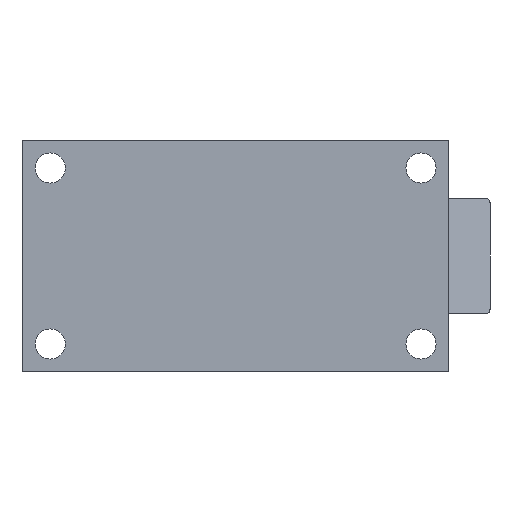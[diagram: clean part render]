
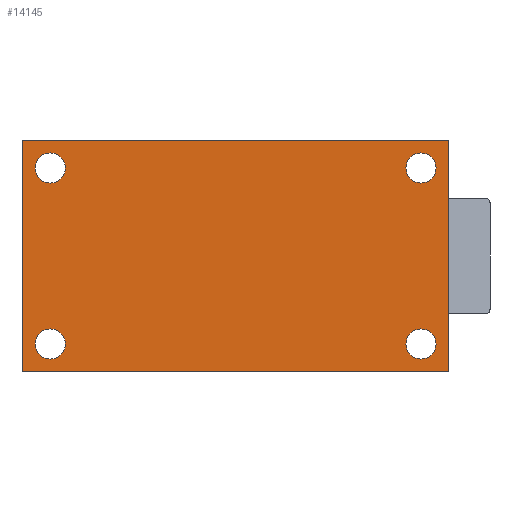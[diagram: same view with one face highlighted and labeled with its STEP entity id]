
A CAD part, front view. The second image highlights one B-rep face of the part: STEP entity #14145.
In plain terms, the highlighted planar face has unit normal (0, -1, 0).
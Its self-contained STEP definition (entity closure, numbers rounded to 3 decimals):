
#49 = DIRECTION ( 'NONE',  ( 0., 0., 1. ) ) ;
#126 = EDGE_LOOP ( 'NONE', ( #6690, #9476, #7011, #12792 ) ) ;
#183 = CARTESIAN_POINT ( 'NONE',  ( 40., -5., 19. ) ) ;
#228 = CARTESIAN_POINT ( 'NONE',  ( -40., -5., 19. ) ) ;
#258 = DIRECTION ( 'NONE',  ( 0., 1., 0. ) ) ;
#281 = DIRECTION ( 'NONE',  ( 0., 1., 0. ) ) ;
#503 = CIRCLE ( 'NONE', #7913, 3.25 ) ;
#531 = CARTESIAN_POINT ( 'NONE',  ( -40., -5., -15.75 ) ) ;
#618 = DIRECTION ( 'NONE',  ( 0., 1., 0. ) ) ;
#1272 = CARTESIAN_POINT ( 'NONE',  ( 46., -5., -25. ) ) ;
#1338 = CIRCLE ( 'NONE', #5550, 3.25 ) ;
#1396 = AXIS2_PLACEMENT_3D ( 'NONE', #1825, #6355, #9931 ) ;
#1507 = AXIS2_PLACEMENT_3D ( 'NONE', #7181, #11907, #5964 ) ;
#1725 = FACE_BOUND ( 'NONE', #2144, .T. ) ;
#1825 = CARTESIAN_POINT ( 'NONE',  ( -40., -5., -19. ) ) ;
#1846 = VERTEX_POINT ( 'NONE', #11957 ) ;
#1973 = EDGE_CURVE ( 'NONE', #15002, #5725, #4780, .T. ) ;
#2142 = CARTESIAN_POINT ( 'NONE',  ( -40., -5., 15.75 ) ) ;
#2144 = EDGE_LOOP ( 'NONE', ( #2409, #6312 ) ) ;
#2197 = CARTESIAN_POINT ( 'NONE',  ( 40., -5., 19. ) ) ;
#2409 = ORIENTED_EDGE ( 'NONE', *, *, #8081, .T. ) ;
#2495 = VECTOR ( 'NONE', #8034, 1000. ) ;
#2846 = VERTEX_POINT ( 'NONE', #6873 ) ;
#3109 = CARTESIAN_POINT ( 'NONE',  ( 0., -5., 0. ) ) ;
#3212 = CIRCLE ( 'NONE', #1396, 3.25 ) ;
#3382 = DIRECTION ( 'NONE',  ( 0., 0., 1. ) ) ;
#3422 = CARTESIAN_POINT ( 'NONE',  ( -46., -5., -25. ) ) ;
#3468 = EDGE_CURVE ( 'NONE', #3482, #9103, #15251, .T. ) ;
#3482 = VERTEX_POINT ( 'NONE', #9320 ) ;
#3579 = FACE_BOUND ( 'NONE', #6650, .T. ) ;
#3771 = ORIENTED_EDGE ( 'NONE', *, *, #1973, .T. ) ;
#3784 = CARTESIAN_POINT ( 'NONE',  ( 46., -5., -25. ) ) ;
#3937 = FACE_BOUND ( 'NONE', #8812, .T. ) ;
#4027 = DIRECTION ( 'NONE',  ( 0., 0., -1. ) ) ;
#4122 = CARTESIAN_POINT ( 'NONE',  ( 40., -5., -22.25 ) ) ;
#4332 = EDGE_LOOP ( 'NONE', ( #5437, #7553 ) ) ;
#4780 = CIRCLE ( 'NONE', #5427, 3.25 ) ;
#4963 = DIRECTION ( 'NONE',  ( 0., 0., -1. ) ) ;
#5002 = VECTOR ( 'NONE', #4027, 1000. ) ;
#5084 = EDGE_CURVE ( 'NONE', #14718, #15345, #3212, .T. ) ;
#5427 = AXIS2_PLACEMENT_3D ( 'NONE', #228, #281, #4963 ) ;
#5437 = ORIENTED_EDGE ( 'NONE', *, *, #7591, .T. ) ;
#5550 = AXIS2_PLACEMENT_3D ( 'NONE', #13303, #258, #49 ) ;
#5632 = VERTEX_POINT ( 'NONE', #1272 ) ;
#5725 = VERTEX_POINT ( 'NONE', #5812 ) ;
#5812 = CARTESIAN_POINT ( 'NONE',  ( -40., -5., 22.25 ) ) ;
#5964 = DIRECTION ( 'NONE',  ( 0., 0., -1. ) ) ;
#5966 = DIRECTION ( 'NONE',  ( 0., 1., 0. ) ) ;
#6002 = DIRECTION ( 'NONE',  ( 0., 0., 1. ) ) ;
#6183 = FACE_OUTER_BOUND ( 'NONE', #126, .T. ) ;
#6312 = ORIENTED_EDGE ( 'NONE', *, *, #14448, .T. ) ;
#6355 = DIRECTION ( 'NONE',  ( 0., 1., 0. ) ) ;
#6426 = VERTEX_POINT ( 'NONE', #11579 ) ;
#6469 = EDGE_CURVE ( 'NONE', #6426, #2846, #11279, .T. ) ;
#6541 = CIRCLE ( 'NONE', #1507, 3.25 ) ;
#6650 = EDGE_LOOP ( 'NONE', ( #3771, #15261 ) ) ;
#6690 = ORIENTED_EDGE ( 'NONE', *, *, #10954, .F. ) ;
#6873 = CARTESIAN_POINT ( 'NONE',  ( 40., -5., 15.75 ) ) ;
#7011 = ORIENTED_EDGE ( 'NONE', *, *, #3468, .F. ) ;
#7181 = CARTESIAN_POINT ( 'NONE',  ( 40., -5., -19. ) ) ;
#7404 = LINE ( 'NONE', #3784, #5002 ) ;
#7553 = ORIENTED_EDGE ( 'NONE', *, *, #5084, .T. ) ;
#7591 = EDGE_CURVE ( 'NONE', #15345, #14718, #1338, .T. ) ;
#7625 = AXIS2_PLACEMENT_3D ( 'NONE', #183, #5966, #8356 ) ;
#7913 = AXIS2_PLACEMENT_3D ( 'NONE', #2197, #10508, #3382 ) ;
#8034 = DIRECTION ( 'NONE',  ( -1., 0., 0. ) ) ;
#8081 = EDGE_CURVE ( 'NONE', #10059, #1846, #13252, .T. ) ;
#8141 = CARTESIAN_POINT ( 'NONE',  ( -40., -5., 19. ) ) ;
#8302 = CARTESIAN_POINT ( 'NONE',  ( -40., -5., -22.25 ) ) ;
#8356 = DIRECTION ( 'NONE',  ( 0., 0., 1. ) ) ;
#8438 = CIRCLE ( 'NONE', #10942, 3.25 ) ;
#8620 = DIRECTION ( 'NONE',  ( 1., 0., 0. ) ) ;
#8812 = EDGE_LOOP ( 'NONE', ( #14373, #9730 ) ) ;
#9103 = VERTEX_POINT ( 'NONE', #11592 ) ;
#9195 = DIRECTION ( 'NONE',  ( 0., 1., 0. ) ) ;
#9273 = CARTESIAN_POINT ( 'NONE',  ( -46., -5., -25. ) ) ;
#9320 = CARTESIAN_POINT ( 'NONE',  ( -46., -5., -25. ) ) ;
#9476 = ORIENTED_EDGE ( 'NONE', *, *, #11700, .F. ) ;
#9730 = ORIENTED_EDGE ( 'NONE', *, *, #6469, .T. ) ;
#9931 = DIRECTION ( 'NONE',  ( 0., 0., 1. ) ) ;
#10059 = VERTEX_POINT ( 'NONE', #4122 ) ;
#10163 = AXIS2_PLACEMENT_3D ( 'NONE', #3109, #9195, #11435 ) ;
#10261 = AXIS2_PLACEMENT_3D ( 'NONE', #15028, #618, #11492 ) ;
#10508 = DIRECTION ( 'NONE',  ( 0., 1., 0. ) ) ;
#10649 = FACE_BOUND ( 'NONE', #4332, .T. ) ;
#10942 = AXIS2_PLACEMENT_3D ( 'NONE', #8141, #11693, #11642 ) ;
#10954 = EDGE_CURVE ( 'NONE', #11580, #5632, #7404, .T. ) ;
#11093 = EDGE_CURVE ( 'NONE', #2846, #6426, #503, .T. ) ;
#11236 = LINE ( 'NONE', #3422, #2495 ) ;
#11279 = CIRCLE ( 'NONE', #7625, 3.25 ) ;
#11435 = DIRECTION ( 'NONE',  ( 0., 0., 1. ) ) ;
#11492 = DIRECTION ( 'NONE',  ( 0., 0., -1. ) ) ;
#11579 = CARTESIAN_POINT ( 'NONE',  ( 40., -5., 22.25 ) ) ;
#11580 = VERTEX_POINT ( 'NONE', #13072 ) ;
#11592 = CARTESIAN_POINT ( 'NONE',  ( -46., -5., 25. ) ) ;
#11642 = DIRECTION ( 'NONE',  ( 0., 0., -1. ) ) ;
#11693 = DIRECTION ( 'NONE',  ( 0., 1., 0. ) ) ;
#11700 = EDGE_CURVE ( 'NONE', #9103, #11580, #12776, .T. ) ;
#11907 = DIRECTION ( 'NONE',  ( 0., 1., 0. ) ) ;
#11957 = CARTESIAN_POINT ( 'NONE',  ( 40., -5., -15.75 ) ) ;
#12438 = CARTESIAN_POINT ( 'NONE',  ( -46., -5., 25. ) ) ;
#12562 = PLANE ( 'NONE',  #10163 ) ;
#12776 = LINE ( 'NONE', #12438, #15207 ) ;
#12792 = ORIENTED_EDGE ( 'NONE', *, *, #13042, .F. ) ;
#13042 = EDGE_CURVE ( 'NONE', #5632, #3482, #11236, .T. ) ;
#13072 = CARTESIAN_POINT ( 'NONE',  ( 46., -5., 25. ) ) ;
#13092 = EDGE_CURVE ( 'NONE', #5725, #15002, #8438, .T. ) ;
#13252 = CIRCLE ( 'NONE', #10261, 3.25 ) ;
#13303 = CARTESIAN_POINT ( 'NONE',  ( -40., -5., -19. ) ) ;
#13429 = VECTOR ( 'NONE', #6002, 1000. ) ;
#14145 = ADVANCED_FACE ( 'NONE', ( #6183, #10649, #1725, #3937, #3579 ), #12562, .F. ) ;
#14373 = ORIENTED_EDGE ( 'NONE', *, *, #11093, .T. ) ;
#14448 = EDGE_CURVE ( 'NONE', #1846, #10059, #6541, .T. ) ;
#14718 = VERTEX_POINT ( 'NONE', #531 ) ;
#15002 = VERTEX_POINT ( 'NONE', #2142 ) ;
#15028 = CARTESIAN_POINT ( 'NONE',  ( 40., -5., -19. ) ) ;
#15207 = VECTOR ( 'NONE', #8620, 1000. ) ;
#15251 = LINE ( 'NONE', #9273, #13429 ) ;
#15261 = ORIENTED_EDGE ( 'NONE', *, *, #13092, .T. ) ;
#15345 = VERTEX_POINT ( 'NONE', #8302 ) ;
